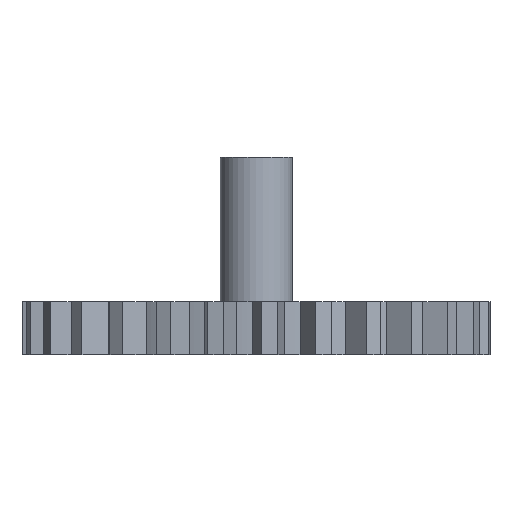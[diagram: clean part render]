
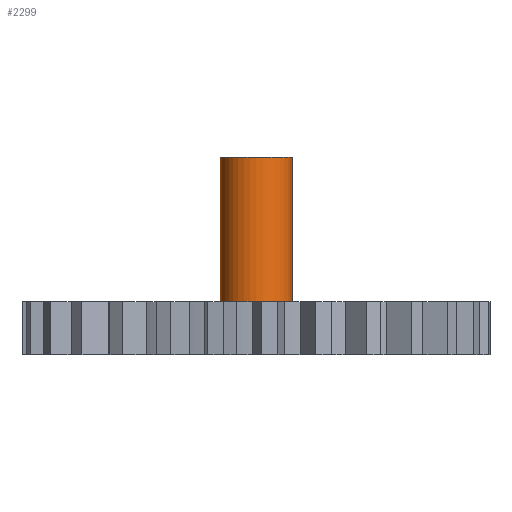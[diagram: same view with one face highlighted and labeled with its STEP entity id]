
A CAD part, left-side view. The second image highlights one B-rep face of the part: STEP entity #2299.
In plain terms, the highlighted cylindrical face has radius 4.5 mm (diameter 9 mm), a full revolution.
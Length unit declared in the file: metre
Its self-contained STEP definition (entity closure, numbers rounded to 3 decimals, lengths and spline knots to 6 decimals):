
#152=CIRCLE('',#2397,0.0045);
#155=CIRCLE('',#2485,0.0045);
#813=ORIENTED_EDGE('',*,*,#1151,.F.);
#814=ORIENTED_EDGE('',*,*,#928,.T.);
#928=EDGE_CURVE('',#1260,#1260,#152,.T.);
#1151=EDGE_CURVE('',#1373,#1373,#155,.T.);
#1260=VERTEX_POINT('',#3356);
#1373=VERTEX_POINT('',#3777);
#2035=EDGE_LOOP('',(#813));
#2036=EDGE_LOOP('',(#814));
#2153=FACE_BOUND('',#2035,.T.);
#2154=FACE_BOUND('',#2036,.T.);
#2186=CYLINDRICAL_SURFACE('',#2484,0.0045);
#2299=ADVANCED_FACE('',(#2153,#2154),#2186,.T.);
#2397=AXIS2_PLACEMENT_3D('',#3355,#2708,#2709);
#2484=AXIS2_PLACEMENT_3D('',#3775,#3102,#3103);
#2485=AXIS2_PLACEMENT_3D('',#3776,#3104,#3105);
#2708=DIRECTION('',(0.,0.,1.));
#2709=DIRECTION('',(1.,0.,0.));
#3102=DIRECTION('',(0.,0.,-1.));
#3103=DIRECTION('',(-1.,0.,0.));
#3104=DIRECTION('',(0.,0.,1.));
#3105=DIRECTION('',(1.,0.,0.));
#3355=CARTESIAN_POINT('',(0.,0.,0.0066));
#3356=CARTESIAN_POINT('',(0.0045,0.,0.0066));
#3775=CARTESIAN_POINT('',(0.,0.,0.0246));
#3776=CARTESIAN_POINT('',(0.,0.,0.0246));
#3777=CARTESIAN_POINT('',(0.0045,0.,0.0246));
